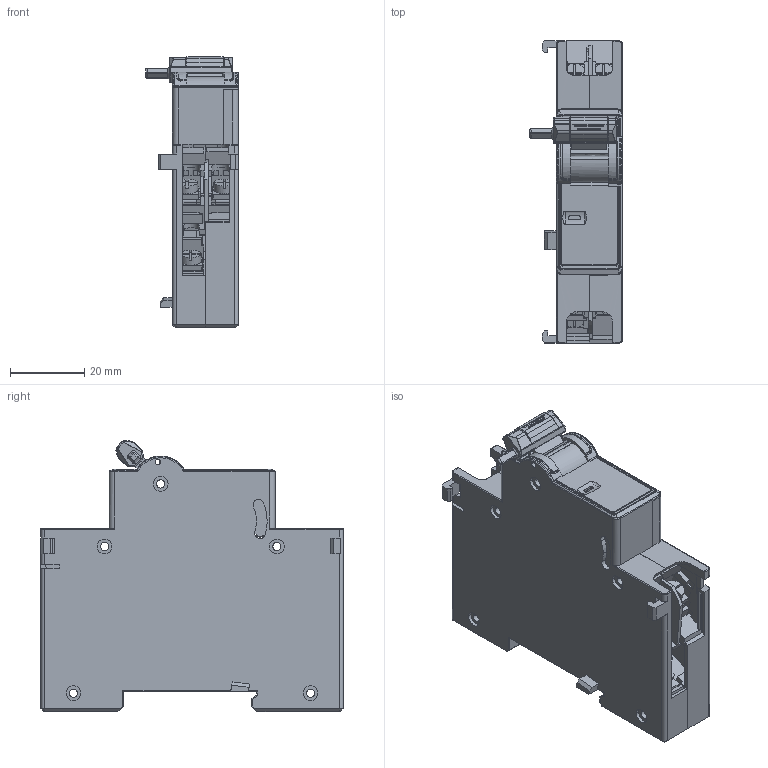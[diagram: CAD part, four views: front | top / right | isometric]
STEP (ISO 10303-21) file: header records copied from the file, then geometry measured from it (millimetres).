
FILE_DESCRIPTION (( 'STEP AP214' ), '1' );
FILE_NAME ('3D Model TGB3-MX+OF3.STEP', '2025-12-15T12:38:18', ( '' ), ( '' ), 'SwSTEP 2.0', 'SolidWorks 2024', '' );
FILE_SCHEMA (( 'AUTOMOTIVE_DESIGN' ));
Length unit declared in the file: millimetre
Products named in the file (14): 3D Model TGB3-MX+OF3; ADMI1CFC0541PJFY_12.stp; ADMI1CFC0541PJFY_1.stp; ADMI1CFC0541PJFY_5.stp; ADMI1CFC0541PJFY_10.stp; L7-MX-20220705_SLDASM-PART-11.stp; ADMI1CFC0541PJFY_8.stp; ADMI1CFC0541PJFY_7.stp; ADMI1CFC0541PJFY_6.stp; ADMI1CFC0541PJFY_11.stp; ADMI1CFC0541PJFY_4.stp; 3D Model TGB3-MX+OF3.stp; ADMI1CFC0541PJFY_ASM.stp; ADMI1CFC0541PJFY_9.stp
Assembly tree (23 placements, depth 4):
  3D Model TGB3-MX+OF3
    3D Model TGB3-MX+OF3.stp
      ADMI1CFC0541PJFY_ASM.stp
        ADMI1CFC0541PJFY_1.stp
        L7-MX-20220705_SLDASM-PART-11.stp
        ADMI1CFC0541PJFY_4.stp
        ADMI1CFC0541PJFY_5.stp
        ADMI1CFC0541PJFY_6.stp
        ADMI1CFC0541PJFY_7.stp
        ADMI1CFC0541PJFY_8.stp
        ADMI1CFC0541PJFY_9.stp
        ADMI1CFC0541PJFY_10.stp
        ADMI1CFC0541PJFY_11.stp
        ADMI1CFC0541PJFY_12.stp
      ADMI1CFC0541PJFY_10.stp
      ADMI1CFC0541PJFY_12.stp  x2
      ADMI1CFC0541PJFY_11.stp
      ADMI1CFC0541PJFY_7.stp  x3
      ADMI1CFC0541PJFY_8.stp  x3
Bounding box: 25.06 x 81.58 x 73.31 mm (x, y, z)
Volume: 24667 mm3; surface area: 40861.1 mm2
Topology: 21 solids, 21 shells, 2218 faces, 6138 edges, 3992 vertices
Faces by surface type: plane 1465, cylinder 557, bspline 95, cone 52, torus 40, sphere 9
Entity records: 65426 total; most frequent: CARTESIAN_POINT 16995, ORIENTED_EDGE 10436, DIRECTION 9457, EDGE_CURVE 5218, VECTOR 3765, LINE 3765, VERTEX_POINT 3382, AXIS2_PLACEMENT_3D 2846
